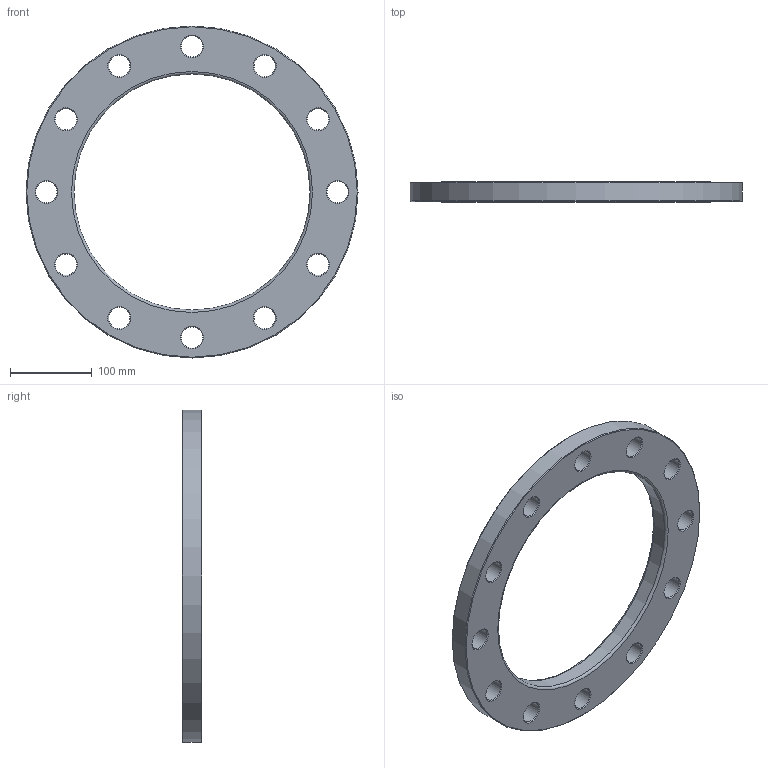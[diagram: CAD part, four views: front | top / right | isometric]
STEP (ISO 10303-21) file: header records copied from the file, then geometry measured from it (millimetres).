
FILE_DESCRIPTION(/* description */ ('Unknown'),/* implementation_level */ '2;1');
FILE_NAME(/* name */ 'FZ250C',/* time_stamp */ '2021-03-15T12:07:32+01:00',/* author */ ('Unknown'),/* organization */ ('Unknown'),/* preprocessor_version */ 'ST-DEVELOPER v16.7',/* originating_system */ 'Solid Edge',/* authorisation */ 'Unknown');
FILE_SCHEMA (('AUTOMOTIVE_DESIGN {1 0 10303 214 3 1 1}'));
Length unit declared in the file: millimetre
Products named in the file (1): FZ250C
Bounding box: 405 x 24 x 405 mm (x, y, z)
Volume: 1369646.4 mm3; surface area: 185462.3 mm2
Topology: 1 solids, 1 shells, 44 faces, 134 edges, 92 vertices
Faces by surface type: cone 26, cylinder 14, plane 2, torus 2
Full cylindrical faces by diameter (mm): 26 x12, 288 x1, 405 x1
Entity records: 1086 total; most frequent: DIRECTION 202, CARTESIAN_POINT 157, ORIENTED_EDGE 112, EDGE_LOOP 112, FACE_BOUND 112, AXIS2_PLACEMENT_3D 101, EDGE_CURVE 56, VERTEX_POINT 56
